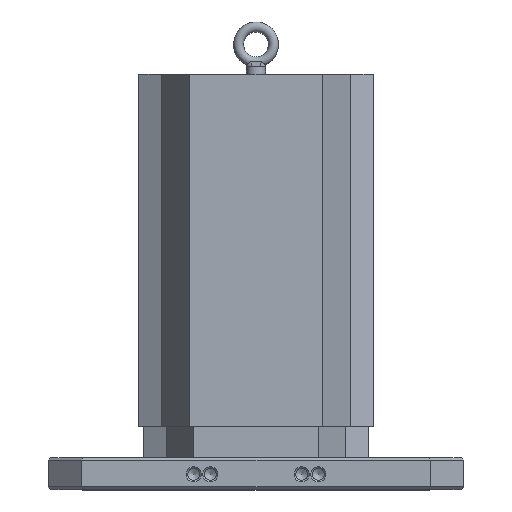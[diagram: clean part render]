
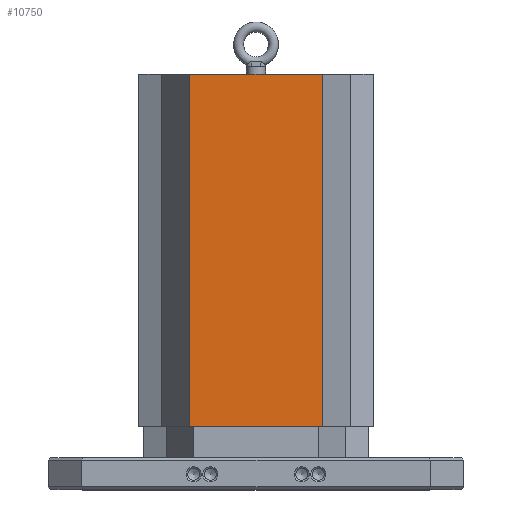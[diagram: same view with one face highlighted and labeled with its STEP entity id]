
A CAD part, top view. The second image highlights one B-rep face of the part: STEP entity #10750.
In plain terms, the highlighted planar face has unit normal (0, 0, 1) as drawn and (0, 0, -1) by its records, which use the part's own axes.
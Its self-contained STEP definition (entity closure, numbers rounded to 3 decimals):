
#338 = AXIS2_PLACEMENT_3D ( 'NONE', #11393, #6665, #11262 ) ;
#607 = ORIENTED_EDGE ( 'NONE', *, *, #8319, .F. ) ;
#627 = CARTESIAN_POINT ( 'NONE',  ( -79.756, 38.1, -116.992 ) ) ;
#1804 = LINE ( 'NONE', #3668, #6446 ) ;
#1848 = EDGE_CURVE ( 'NONE', #4830, #10573, #7596, .T. ) ;
#1979 = EDGE_CURVE ( 'NONE', #8381, #7661, #10678, .T. ) ;
#2587 = CARTESIAN_POINT ( 'NONE',  ( 79.756, 38.1, -116.992 ) ) ;
#3072 = PLANE ( 'NONE',  #338 ) ;
#3453 = EDGE_LOOP ( 'NONE', ( #607, #5865, #9936, #9359 ) ) ;
#3668 = CARTESIAN_POINT ( 'NONE',  ( 79.756, 653.126, -116.992 ) ) ;
#4830 = VERTEX_POINT ( 'NONE', #5976 ) ;
#5530 = VECTOR ( 'NONE', #6685, 1000. ) ;
#5865 = ORIENTED_EDGE ( 'NONE', *, *, #1848, .T. ) ;
#5976 = CARTESIAN_POINT ( 'NONE',  ( -79.756, 462., -116.992 ) ) ;
#6028 = CARTESIAN_POINT ( 'NONE',  ( -79.756, 38.1, -116.992 ) ) ;
#6446 = VECTOR ( 'NONE', #8166, 1000. ) ;
#6665 = DIRECTION ( 'NONE',  ( 0., 0., -1. ) ) ;
#6685 = DIRECTION ( 'NONE',  ( 1., 0., 0. ) ) ;
#7596 = LINE ( 'NONE', #11231, #5530 ) ;
#7661 = VERTEX_POINT ( 'NONE', #2587 ) ;
#7673 = LINE ( 'NONE', #7731, #8136 ) ;
#7731 = CARTESIAN_POINT ( 'NONE',  ( -79.756, 653.126, -116.992 ) ) ;
#8136 = VECTOR ( 'NONE', #10531, 1000. ) ;
#8166 = DIRECTION ( 'NONE',  ( 0., -1., 0. ) ) ;
#8319 = EDGE_CURVE ( 'NONE', #4830, #8381, #7673, .T. ) ;
#8381 = VERTEX_POINT ( 'NONE', #627 ) ;
#9359 = ORIENTED_EDGE ( 'NONE', *, *, #1979, .F. ) ;
#9936 = ORIENTED_EDGE ( 'NONE', *, *, #11125, .T. ) ;
#10357 = FACE_OUTER_BOUND ( 'NONE', #3453, .T. ) ;
#10451 = DIRECTION ( 'NONE',  ( 1., 0., 0. ) ) ;
#10531 = DIRECTION ( 'NONE',  ( 0., -1., 0. ) ) ;
#10547 = CARTESIAN_POINT ( 'NONE',  ( 79.756, 462., -116.992 ) ) ;
#10573 = VERTEX_POINT ( 'NONE', #10547 ) ;
#10678 = LINE ( 'NONE', #6028, #11186 ) ;
#10750 = ADVANCED_FACE ( 'NONE', ( #10357 ), #3072, .T. ) ;
#11125 = EDGE_CURVE ( 'NONE', #10573, #7661, #1804, .T. ) ;
#11186 = VECTOR ( 'NONE', #10451, 1000. ) ;
#11231 = CARTESIAN_POINT ( 'NONE',  ( -79.756, 462., -116.992 ) ) ;
#11262 = DIRECTION ( 'NONE',  ( -1., 0., 0. ) ) ;
#11393 = CARTESIAN_POINT ( 'NONE',  ( -79.756, 653.126, -116.992 ) ) ;
